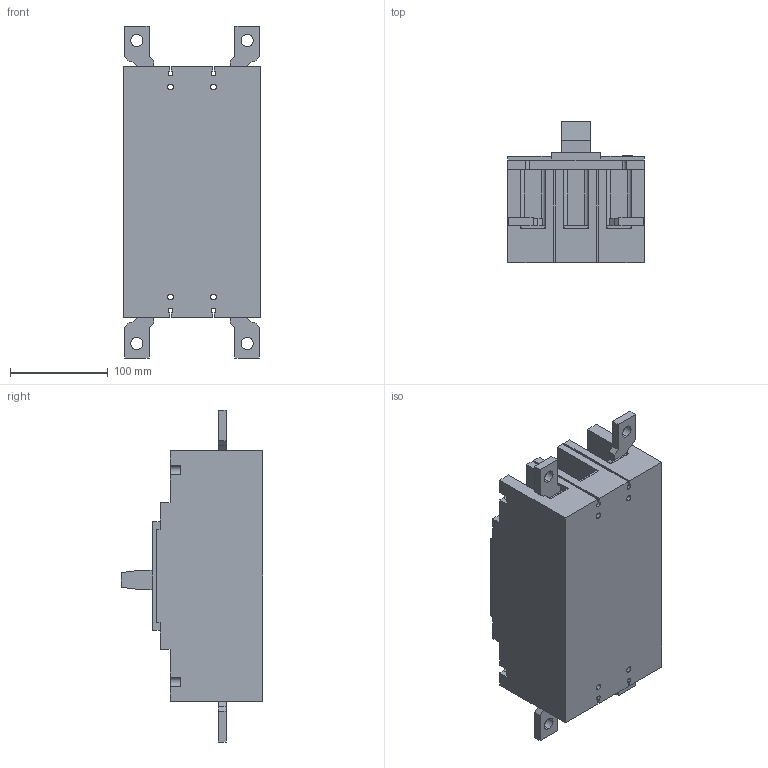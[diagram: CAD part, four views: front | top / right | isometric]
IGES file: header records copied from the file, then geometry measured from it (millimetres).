
Start section:  PTC IGES file: 23-metasol-mccb-400af-3p-2bus.igs
Global section: file name: 23-metasol-mccb-400af-3p-2bus.igs; native system: Pro/ENGINEER by Parametric Technology Corporation; preprocessor: 2010280; author: mgkimb; organization: Unknown; date: 20131029.143446; units: millimetre
Bounding box: 140 x 145 x 340 mm (x, y, z)
Surface area: 219214.3 mm2 (no closed solid volume)
Topology: 0 solids, 0 shells, 297 faces, 1568 edges, 1568 vertices
Faces by surface type: bspline 203, revolution 94
